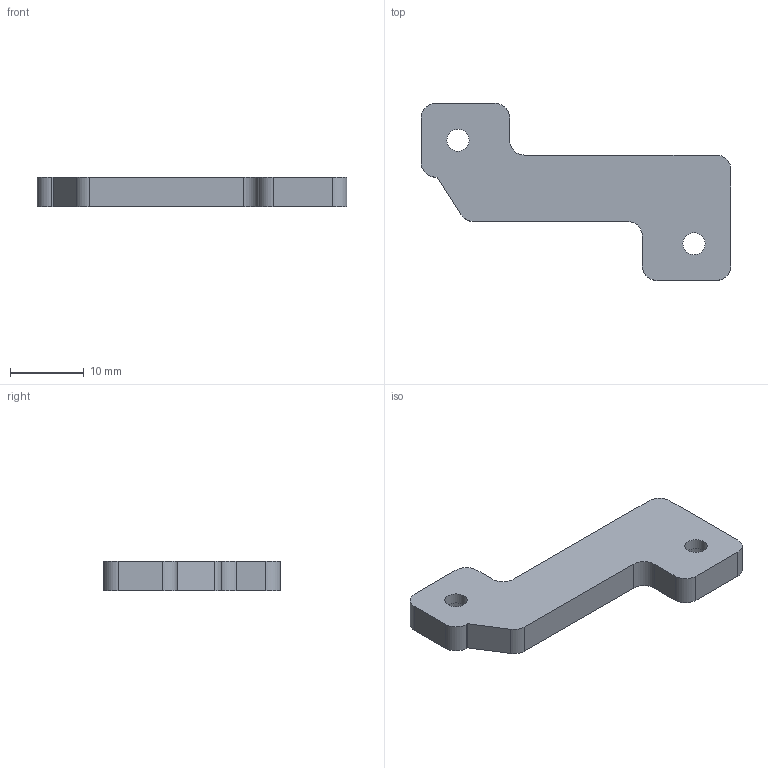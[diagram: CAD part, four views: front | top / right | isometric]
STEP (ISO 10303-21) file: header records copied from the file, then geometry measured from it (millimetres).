
FILE_DESCRIPTION(/* description */ (''),/* implementation_level */ '2;1');
FILE_NAME(/* name */ '10_Play_Switch_Base.step',/* time_stamp */ '2026-09-20T10:25:49-07:00',/* author */ (''),/* organization */ (''),/* preprocessor_version */ 'ST-DEVELOPER v20.2',/* originating_system */ 'Autodesk Translation Framework v15.15.0.0',/* authorisation */ '');
FILE_SCHEMA (('AUTOMOTIVE_DESIGN { 1 0 10303 214 3 1 1 }'));
Length unit declared in the file: millimetre
Products named in the file (1): 2026-09-20-10-25-49-063
Bounding box: 42 x 24 x 4 mm (x, y, z)
Volume: 1979.1 mm3; surface area: 1634.9 mm2
Topology: 1 solids, 1 shells, 27 faces, 69 edges, 46 vertices
Faces by surface type: plane 14, cylinder 13
Full cylindrical faces by diameter (mm): 3 x2, 5.5 x2
Entity records: 870 total; most frequent: DIRECTION 151, CARTESIAN_POINT 143, ORIENTED_EDGE 138, EDGE_CURVE 69, AXIS2_PLACEMENT_3D 54, VERTEX_POINT 46, LINE 43, VECTOR 43
